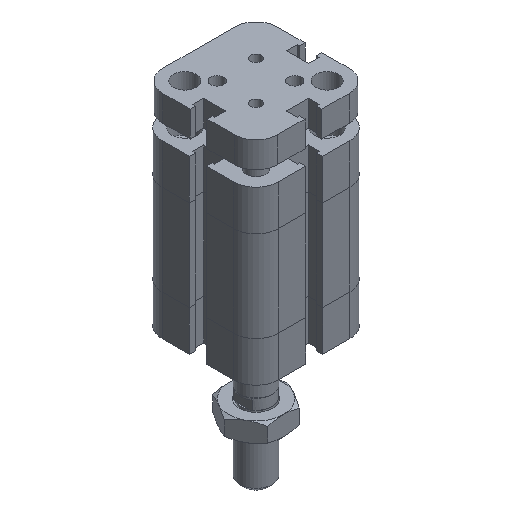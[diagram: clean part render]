
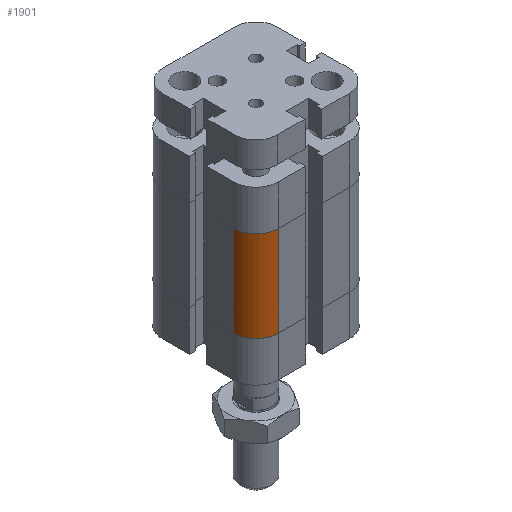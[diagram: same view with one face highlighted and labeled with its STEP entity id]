
A CAD part, isometric view. The second image highlights one B-rep face of the part: STEP entity #1901.
In plain terms, the highlighted cylindrical face has radius 7 mm (diameter 14 mm), a partial arc.
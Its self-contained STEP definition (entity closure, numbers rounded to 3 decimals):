
#1812=CARTESIAN_POINT('',(-18.,-11.0,12.5));
#1813=VERTEX_POINT('',#1812);
#1820=CARTESIAN_POINT('',(-18.,-11.0,40.5));
#1821=VERTEX_POINT('',#1820);
#1822=CARTESIAN_POINT('',(-18.,-11.0,12.5));
#1823=DIRECTION('',(0.0,0.0,1.0));
#1824=VECTOR('',#1823,28.);
#1825=LINE('',#1822,#1824);
#1826=EDGE_CURVE('',#1813,#1821,#1825,.T.);
#1869=CARTESIAN_POINT('',(-11.0,-11.0,0.0));
#1870=DIRECTION('',(0.0,0.0,1.0));
#1871=DIRECTION('',(1.0,0.0,0.0));
#1872=AXIS2_PLACEMENT_3D('',#1869,#1870,#1871);
#1873=CYLINDRICAL_SURFACE('',#1872,7.0);
#1874=CARTESIAN_POINT('',(-11.0,-18.,12.5));
#1875=VERTEX_POINT('',#1874);
#1876=CARTESIAN_POINT('',(-11.0,-11.0,12.5));
#1877=DIRECTION('',(0.0,0.0,1.0));
#1878=DIRECTION('',(1.0,0.0,0.0));
#1879=AXIS2_PLACEMENT_3D('',#1876,#1877,#1878);
#1880=CIRCLE('',#1879,7.0);
#1881=EDGE_CURVE('',#1813,#1875,#1880,.T.);
#1882=ORIENTED_EDGE('',*,*,#1881,.T.);
#1883=CARTESIAN_POINT('',(-11.0,-18.,40.5));
#1884=VERTEX_POINT('',#1883);
#1885=CARTESIAN_POINT('',(-11.0,-18.,12.5));
#1886=DIRECTION('',(0.0,0.0,1.0));
#1887=VECTOR('',#1886,28.);
#1888=LINE('',#1885,#1887);
#1889=EDGE_CURVE('',#1875,#1884,#1888,.T.);
#1890=ORIENTED_EDGE('',*,*,#1889,.T.);
#1891=CARTESIAN_POINT('',(-11.0,-11.0,40.5));
#1892=DIRECTION('',(0.0,0.0,1.0));
#1893=DIRECTION('',(1.0,0.0,0.0));
#1894=AXIS2_PLACEMENT_3D('',#1891,#1892,#1893);
#1895=CIRCLE('',#1894,7.0);
#1896=EDGE_CURVE('',#1821,#1884,#1895,.T.);
#1897=ORIENTED_EDGE('',*,*,#1896,.F.);
#1898=ORIENTED_EDGE('',*,*,#1826,.F.);
#1899=EDGE_LOOP('',(#1882,#1890,#1897,#1898));
#1900=FACE_OUTER_BOUND('',#1899,.T.);
#1901=ADVANCED_FACE('',(#1900),#1873,.T.);
